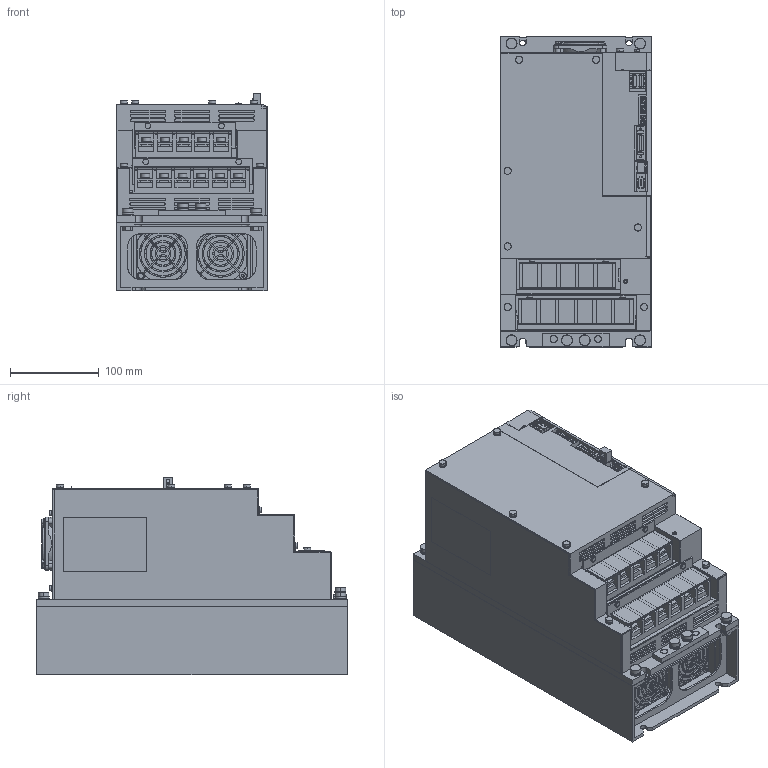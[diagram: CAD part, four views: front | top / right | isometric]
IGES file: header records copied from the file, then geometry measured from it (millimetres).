
Start section: SolidWorks IGES file using analytic representation for surfaces
Global section: file name: D:\YASKAWA\sgdv_470a1_a.IGS; native system: SolidWorks 2006 by SolidWorks Corporation; preprocessor: SolidWorks 2006 by SolidWorks Corporation; author: yamanouchi; date: 111222.143101; units: millimetre
Bounding box: 170.6 x 350 x 223 mm (x, y, z)
Surface area: 534339.1 mm2 (no closed solid volume)
Topology: 0 solids, 0 shells, 2573 faces, 28252 edges, 28252 vertices
Faces by surface type: bspline 2056, revolution 517
